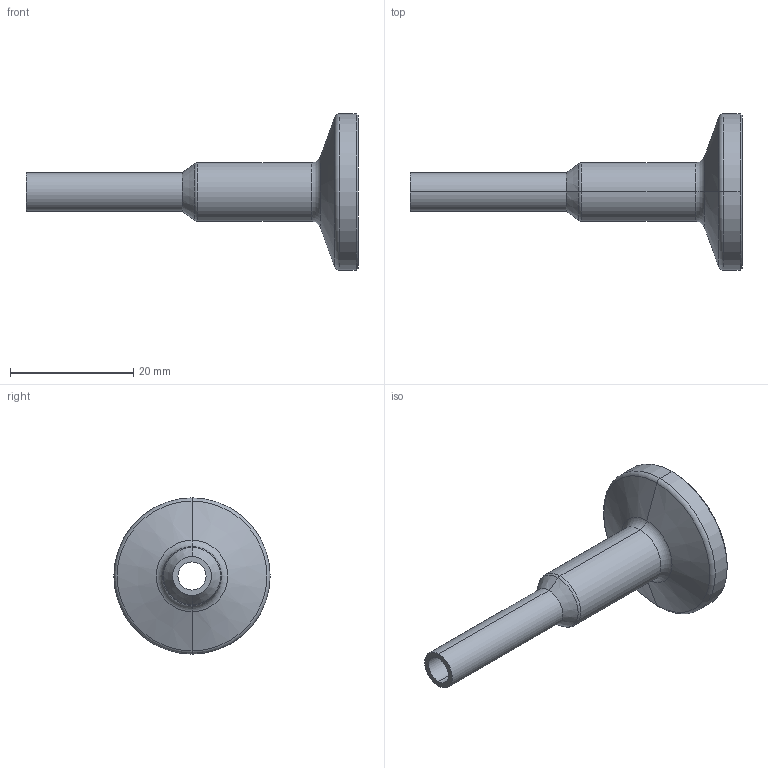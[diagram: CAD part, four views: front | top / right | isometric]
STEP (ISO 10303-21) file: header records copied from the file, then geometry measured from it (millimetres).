
FILE_DESCRIPTION (( 'STEP AP214' ), '1' );
FILE_NAME ('TE31SCW6L.375x.25-...STEP', '2016-05-29T11:54:47', ( 'eran' ), ( '' ), 'SwSTEP 2.0', 'SolidWorks 2016', '' );
FILE_SCHEMA (( 'AUTOMOTIVE_DESIGN' ));
Length unit declared in the file: millimetre
Products named in the file (1): TE31SCW6L.375x.25-..
Bounding box: 53.98 x 25.4 x 25.4 mm (x, y, z)
Volume: 3222 mm3; surface area: 3422.2 mm2
Topology: 1 solids, 1 shells, 37 faces, 74 edges, 40 vertices
Faces by surface type: cone 12, cylinder 12, torus 10, plane 3
Entity records: 992 total; most frequent: DIRECTION 200, CARTESIAN_POINT 152, ORIENTED_EDGE 148, AXIS2_PLACEMENT_3D 88, EDGE_CURVE 74, CIRCLE 50, EDGE_LOOP 40, VERTEX_POINT 40
